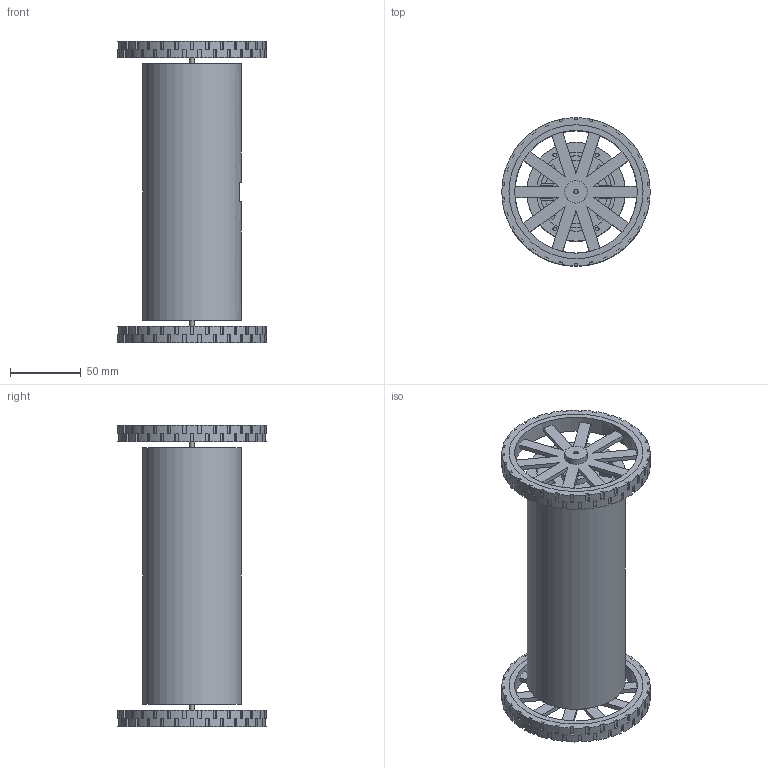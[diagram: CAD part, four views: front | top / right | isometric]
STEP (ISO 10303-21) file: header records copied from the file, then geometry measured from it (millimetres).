
FILE_DESCRIPTION(('Open CASCADE Model'),'2;1');
FILE_NAME('Open CASCADE Shape Model','2026-10-04T21:56:27',('Author'),( 'Open CASCADE'),'Open CASCADE STEP processor 7.9','Open CASCADE 7.9' ,'Unknown');
FILE_SCHEMA(('AUTOMOTIVE_DESIGN { 1 0 10303 214 1 1 1 1 }'));
Length unit declared in the file: millimetre
Products named in the file (17): recon_ugv; casing_shell; end_cap_a; end_cap_b; chassis_spine; imu_bridge; imu_board; camera_mount; pitch_motor_envelope; wheel_motor_a; wheel_motor_b; wheel_shaft_a; wheel_a; wheel_b; wheel_shaft_b; tire_a; tire_b
Assembly tree (16 placements, depth 2):
  recon_ugv
    casing_shell
    end_cap_a
    end_cap_b
    chassis_spine
    imu_bridge
    imu_board
    camera_mount
    pitch_motor_envelope
    wheel_motor_a
    wheel_motor_b
    wheel_shaft_a
    wheel_a
    wheel_b
    wheel_shaft_b
    tire_a
    tire_b
Bounding box: 105 x 105 x 214 mm (x, y, z)
Volume: 266309.8 mm3; surface area: 194564.8 mm2
Topology: 16 solids, 16 shells, 745 faces, 2120 edges, 1408 vertices
Faces by surface type: plane 632, cylinder 113
Full cylindrical faces by diameter (mm): 2.2 x6, 2.5 x18, 2.7 x8, 3 x4, 3.2 x1, 3.4 x13, 5 x1, 7 x6, 8.5 x2, 10 x2, 12 x2, 13 x2, 16 x6, 20 x1, 21 x1, 27 x1, 34 x1, 40 x1, 41 x1, 42 x1, 45 x1, 55 x1, 56 x2, 57 x1, 65 x3, 70 x1, 87 x2, 95 x8, 98 x4, 105 x2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
Entity records: 54448 total; most frequent: CARTESIAN_POINT 11014, DIRECTION 8243, LINE 5216, VECTOR 5216, ORIENTED_EDGE 4240, PCURVE 4240, DEFINITIONAL_REPRESENTATION 4240, EDGE_CURVE 2120
